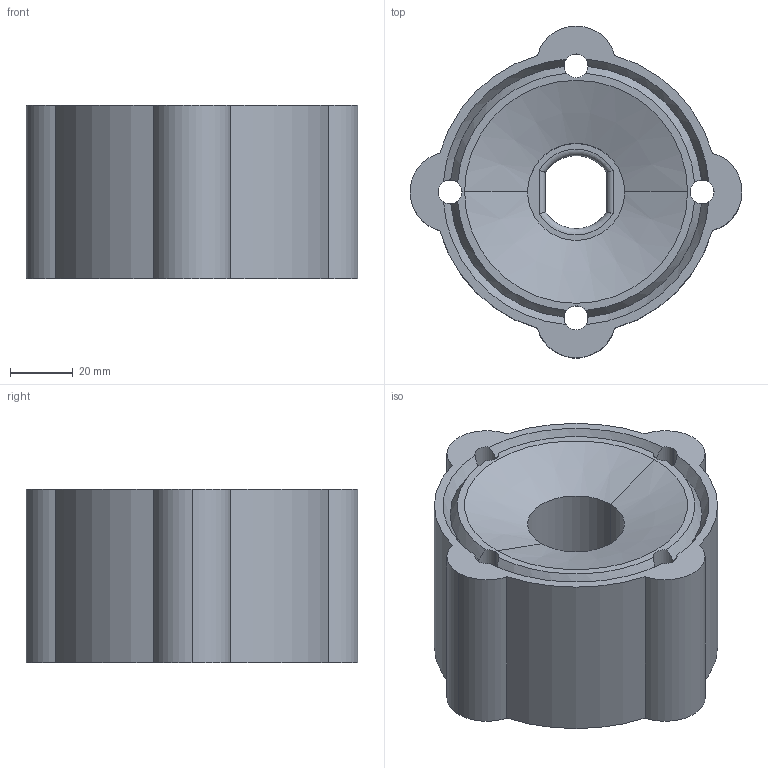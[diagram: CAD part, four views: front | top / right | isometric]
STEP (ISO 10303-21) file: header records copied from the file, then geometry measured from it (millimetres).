
FILE_DESCRIPTION (( 'STEP AP214' ), '1' );
FILE_NAME ('Mount.STEP', '2020-09-22T17:12:41', ( '' ), ( '' ), 'SwSTEP 2.0', 'SolidWorks 2019', '' );
FILE_SCHEMA (( 'AUTOMOTIVE_DESIGN' ));
Length unit declared in the file: millimetre
Products named in the file (1): Mount
Bounding box: 105.35 x 105.3 x 55 mm (x, y, z)
Volume: 320481.7 mm3; surface area: 43250.3 mm2
Topology: 1 solids, 1 shells, 291 faces, 795 edges, 528 vertices
Faces by surface type: plane 192, bspline 64, cylinder 23, cone 10, torus 2
Entity records: 12349 total; most frequent: CARTESIAN_POINT 5343, ORIENTED_EDGE 1590, DIRECTION 1161, EDGE_CURVE 795, LINE 581, VECTOR 581, VERTEX_POINT 528, EDGE_LOOP 323
